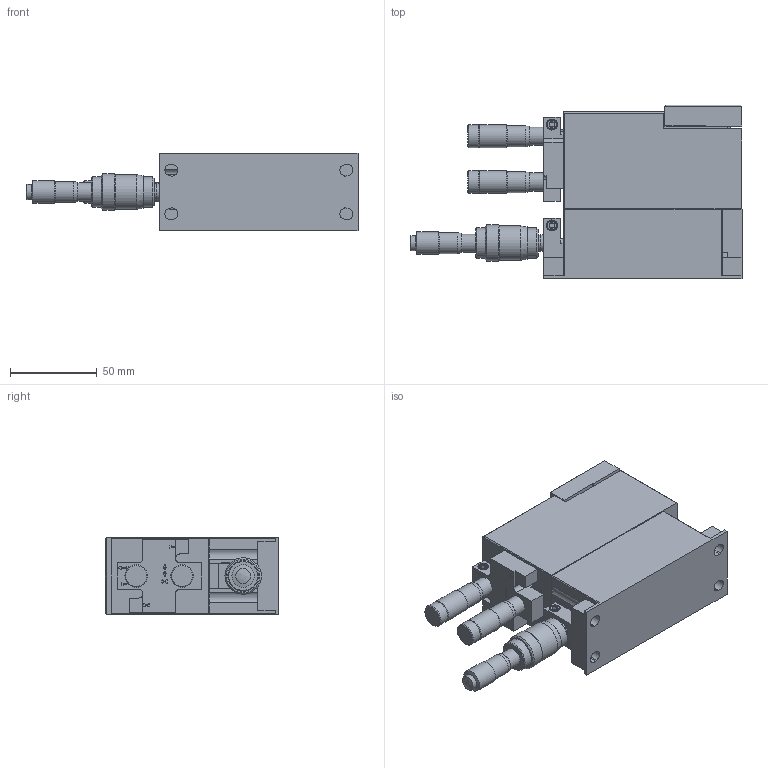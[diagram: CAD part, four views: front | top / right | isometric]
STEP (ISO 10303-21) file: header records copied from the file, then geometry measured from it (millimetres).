
FILE_DESCRIPTION((''),'1');
FILE_NAME('P1-L-H-I','2021-03-26T14:18:55',('JD'),('Luminos'),'Spatial Interop R20 SP1','Kubotek KeyCreator V9.0.3 (16864)',' ');
FILE_SCHEMA(('automotive_design'));
Length unit declared in the file: inch
Products named in the file (2): 1; 2
Bounding box: 191.28 x 100.08 x 44.45 mm (x, y, z)
Volume: 480405.2 mm3; surface area: 66407.1 mm2
Topology: 2 solids, 2 shells, 446 faces, 1065 edges, 686 vertices
Faces by surface type: plane 259, cylinder 115, cone 71, sphere 1
Full cylindrical faces by diameter (mm): 2.05 x25, 4.648 x2, 4.775 x2, 5 x3, 5.74 x3, 6.35 x3, 7.144 x1, 8.7 x1, 9.3 x1, 9.5 x3, 9.525 x1, 10.49 x2, 10.5 x1, 12.1 x1, 12.116 x2, 13 x1, 13.081 x4, 17.7 x2, 20 x1, 21 x1
Entity records: 22183 total; most frequent: CARTESIAN_POINT 2234, DIRECTION 2087, ORIENTED_EDGE 1850, PRESENTATION_STYLE_ASSIGNMENT 1821, COLOUR_RGB 1821, STYLED_ITEM 1373, CURVE_STYLE 1373, DRAUGHTING_PRE_DEFINED_CURVE_FONT 1373
